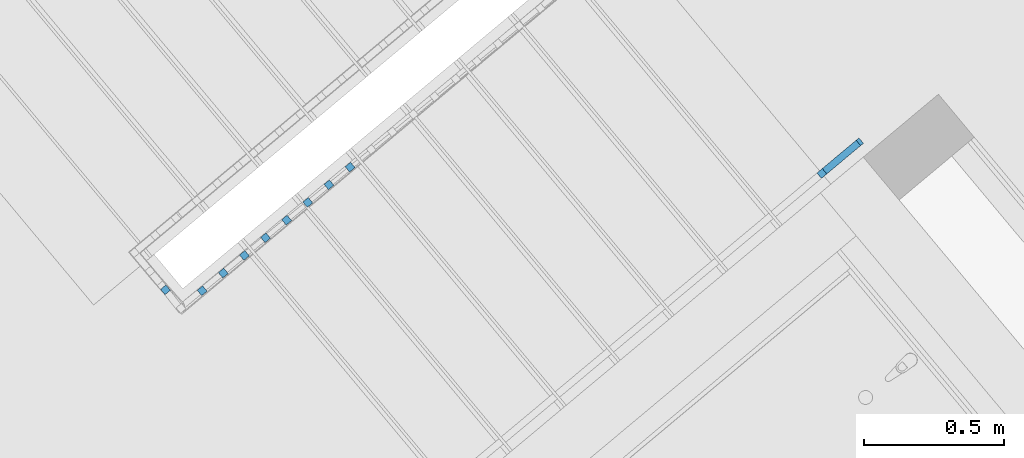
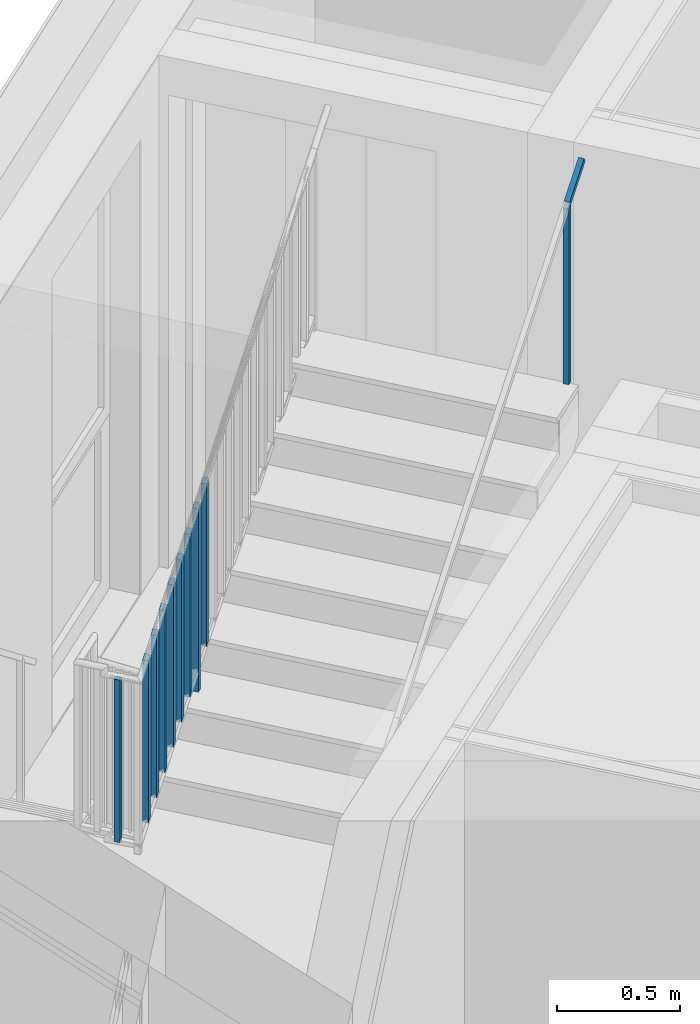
# One storey, part 44 of 58: 11 building element parts, 2 elements without a shape of their own.
"""IFC4 building model written with IfcOpenShell, lengths in metres."""

from ifc_helpers import new_model, entity, si_unit, converted_unit, derived_unit, direction, frame, origin_with_axes, place, context, subcontext, project, spatial, polygons, material, type_object, element, aggregate, save


model = new_model("IFC4")

# Units and contexts
model_context = context("Model", 3, precision=1e-05, world=origin_with_axes(), true_north=direction((0.0, 1.0)))
body_context = subcontext(model_context, "Body", "Model", "MODEL_VIEW")
ifc_project = project(units=[si_unit("LENGTHUNIT", "METRE"), si_unit("AREAUNIT", "SQUARE_METRE"), si_unit("VOLUMEUNIT", "CUBIC_METRE"), converted_unit("PLANEANGLEUNIT", "DEGREE", entity("IfcPlaneAngleMeasure", 0.0174532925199), si_unit("PLANEANGLEUNIT", "RADIAN"), dimensions=[0, 0, 0, 0, 0, 0, 0]), converted_unit("TIMEUNIT", "Year", entity("IfcTimeMeasure", 31556926.0), si_unit("TIMEUNIT", "SECOND"), dimensions=[0, 0, 1, 0, 0, 0, 0]), si_unit("MASSUNIT", "GRAM", prefix="KILO"), si_unit("THERMODYNAMICTEMPERATUREUNIT", "DEGREE_CELSIUS"), si_unit("LUMINOUSINTENSITYUNIT", "LUMEN"), si_unit("ENERGYUNIT", "JOULE", prefix="MEGA"), derived_unit("THERMALCONDUCTANCEUNIT", [(si_unit("POWERUNIT", "WATT"), 1), (si_unit("LENGTHUNIT", "METRE"), -1), (si_unit("THERMODYNAMICTEMPERATUREUNIT", "KELVIN"), -1)]), derived_unit("SPECIFICHEATCAPACITYUNIT", [(si_unit("ENERGYUNIT", "JOULE"), 1), (si_unit("MASSUNIT", "GRAM", prefix="KILO"), -1), (si_unit("THERMODYNAMICTEMPERATUREUNIT", "KELVIN"), -1)]), derived_unit("MASSDENSITYUNIT", [(si_unit("MASSUNIT", "GRAM", prefix="KILO"), 1), (si_unit("VOLUMEUNIT", "CUBIC_METRE"), -1)])], contexts=[model_context])

# Site, building, storey
site_placement = place(None, frame((-0.00153261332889, -0.00661245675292, 0.0), z_axis=(0.0, 0.0, 1.0), x_axis=(1.0, 0.0, 0.0)))
site = spatial("IfcSite", under=ifc_project, at=site_placement, Name="Site", CompositionType="ELEMENT")
building_placement = place(site_placement, origin_with_axes())
building = spatial("IfcBuilding", under=site, at=building_placement, Name="Building", CompositionType="ELEMENT")
storey_placement = place(building_placement, frame((0.0, 0.0, 5.7), z_axis=(0.0, 0.0, 1.0), x_axis=(1.0, 0.0, 0.0)))
storey = spatial("IfcBuildingStorey", under=building, at=storey_placement, Name="DG1", CompositionType="ELEMENT", Elevation=5.7)

# Railing, building element parts
railing_type = type_object("IfcRailingType", Name="Geländerart", PredefinedType="NOTDEFINED")
railing_1_placement = place(storey_placement, frame((-0.398547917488, 23.8355657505, 0.05), z_axis=(0.0, 0.0, 1.0), x_axis=(1.0, 0.0, 0.0)))
railing_1 = element("IfcRailing", 1, at=railing_1_placement, inside=storey, type_object=railing_type, Name="Geländer - 001", PredefinedType="NOTDEFINED")
ifc_material = material(Name="BEKLEIDUNG")
building_element_part_1_placement = place(railing_1_placement, origin_with_axes())
building_element_part_1 = element("IfcBuildingElementPart", 2, at=building_element_part_1_placement, material=ifc_material, Name="BEKLEIDUNG", PredefinedType="NOTDEFINED", context=body_context, shape_type="Tessellation", body=[
    polygons([(-1.7035806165, -1.60032774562, 1.80989887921), (-1.6843964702, -1.5842975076, 1.80989887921), (-1.6843964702, -1.5842975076, 2.61739887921), (-1.7035806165, -1.60032774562, 2.61739887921), (-1.71961085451, -1.58114359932, 1.80989887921), (-1.70042670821, -1.5651133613, 1.80989887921), (-1.70042670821, -1.5651133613, 2.61739887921), (-1.71961085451, -1.58114359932, 2.61739887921)], [[[1, 2, 3, 4]], [[1, 5, 6, 2]], [[2, 6, 7, 3]], [[4, 3, 7, 8]], [[5, 1, 4, 8]], [[6, 5, 8, 7]]], closed=True),
])
building_element_part_2_placement = place(railing_1_placement, origin_with_axes())
building_element_part_2 = element("IfcBuildingElementPart", 3, at=building_element_part_2_placement, material=ifc_material, Name="BEKLEIDUNG", PredefinedType="NOTDEFINED", context=body_context, shape_type="Tessellation", body=[
    polygons([(-1.55322027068, -1.58760797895, 1.87805222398), (-1.5692505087, -1.56842383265, 1.87805222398), (-1.5692505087, -1.56842383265, 2.68555222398), (-1.55322027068, -1.58760797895, 2.68555222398), (-1.57240441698, -1.60363821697, 1.86270754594), (-1.588434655, -1.58445407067, 1.86270754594), (-1.588434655, -1.58445407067, 2.67020754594), (-1.57240441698, -1.60363821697, 2.67020754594)], [[[1, 2, 3, 4]], [[1, 5, 6, 2]], [[2, 6, 7, 3]], [[4, 3, 7, 8]], [[5, 1, 4, 8]], [[6, 5, 8, 7]]], closed=True),
])
building_element_part_3_placement = place(railing_1_placement, origin_with_axes())
building_element_part_3 = element("IfcBuildingElementPart", 4, at=building_element_part_3_placement, material=ifc_material, Name="BEKLEIDUNG", PredefinedType="NOTDEFINED", context=body_context, shape_type="Tessellation", body=[
    polygons([(-1.4776060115, -1.52442484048, 1.93853322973), (-1.49363624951, -1.50524069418, 1.93853322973), (-1.49363624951, -1.50524069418, 2.74603322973), (-1.4776060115, -1.52442484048, 2.74603322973), (-1.4967901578, -1.54045507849, 1.92318855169), (-1.51282039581, -1.52127093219, 1.92318855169), (-1.51282039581, -1.52127093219, 2.73068855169), (-1.4967901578, -1.54045507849, 2.73068855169)], [[[1, 2, 3, 4]], [[1, 5, 6, 2]], [[2, 6, 7, 3]], [[4, 3, 7, 8]], [[5, 1, 4, 8]], [[6, 5, 8, 7]]], closed=True),
])
building_element_part_4_placement = place(railing_1_placement, origin_with_axes())
building_element_part_4 = element("IfcBuildingElementPart", 5, at=building_element_part_4_placement, material=ifc_material, Name="BEKLEIDUNG", PredefinedType="NOTDEFINED", context=body_context, shape_type="Tessellation", body=[
    polygons([(-1.40199175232, -1.461241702, 1.99901423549), (-1.41802199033, -1.4420575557, 1.99901423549), (-1.41802199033, -1.4420575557, 2.80651423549), (-1.40199175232, -1.461241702, 2.80651423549), (-1.42117589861, -1.47727194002, 1.98366955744), (-1.43720613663, -1.45808779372, 1.98366955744), (-1.43720613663, -1.45808779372, 2.79116955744), (-1.42117589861, -1.47727194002, 2.79116955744)], [[[1, 2, 3, 4]], [[1, 5, 6, 2]], [[2, 6, 7, 3]], [[4, 3, 7, 8]], [[5, 1, 4, 8]], [[6, 5, 8, 7]]], closed=True),
])
building_element_part_5_placement = place(railing_1_placement, origin_with_axes())
building_element_part_5 = element("IfcBuildingElementPart", 6, at=building_element_part_5_placement, material=ifc_material, Name="BEKLEIDUNG", PredefinedType="NOTDEFINED", context=body_context, shape_type="Tessellation", body=[
    polygons([(-1.32637749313, -1.39805856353, 2.05949524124), (-1.34240773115, -1.37887441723, 2.05949524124), (-1.34240773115, -1.37887441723, 2.86699524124), (-1.32637749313, -1.39805856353, 2.86699524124), (-1.34556163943, -1.41408880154, 2.04415056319), (-1.36159187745, -1.39490465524, 2.04415056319), (-1.36159187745, -1.39490465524, 2.85165056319), (-1.34556163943, -1.41408880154, 2.85165056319)], [[[1, 2, 3, 4]], [[1, 5, 6, 2]], [[2, 6, 7, 3]], [[4, 3, 7, 8]], [[5, 1, 4, 8]], [[6, 5, 8, 7]]], closed=True),
])
building_element_part_6_placement = place(railing_1_placement, origin_with_axes())
building_element_part_6 = element("IfcBuildingElementPart", 7, at=building_element_part_6_placement, material=ifc_material, Name="BEKLEIDUNG", PredefinedType="NOTDEFINED", context=body_context, shape_type="Tessellation", body=[
    polygons([(-1.25076323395, -1.33487542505, 2.11997624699), (-1.26679347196, -1.31569127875, 2.11997624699), (-1.26679347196, -1.31569127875, 2.92747624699), (-1.25076323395, -1.33487542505, 2.92747624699), (-1.26994738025, -1.35090566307, 2.10463156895), (-1.28597761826, -1.33172151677, 2.10463156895), (-1.28597761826, -1.33172151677, 2.91213156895), (-1.26994738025, -1.35090566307, 2.91213156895)], [[[1, 2, 3, 4]], [[1, 5, 6, 2]], [[2, 6, 7, 3]], [[4, 3, 7, 8]], [[5, 1, 4, 8]], [[6, 5, 8, 7]]], closed=True),
])
building_element_part_7_placement = place(railing_1_placement, origin_with_axes())
building_element_part_7 = element("IfcBuildingElementPart", 8, at=building_element_part_7_placement, material=ifc_material, Name="BEKLEIDUNG", PredefinedType="NOTDEFINED", context=body_context, shape_type="Tessellation", body=[
    polygons([(-1.17514897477, -1.27169228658, 2.18045725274), (-1.19117921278, -1.25250814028, 2.18045725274), (-1.19117921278, -1.25250814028, 2.98795725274), (-1.17514897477, -1.27169228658, 2.98795725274), (-1.19433312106, -1.28772252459, 2.1651125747), (-1.21036335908, -1.26853837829, 2.1651125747), (-1.21036335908, -1.26853837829, 2.9726125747), (-1.19433312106, -1.28772252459, 2.9726125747)], [[[1, 2, 3, 4]], [[1, 5, 6, 2]], [[2, 6, 7, 3]], [[4, 3, 7, 8]], [[5, 1, 4, 8]], [[6, 5, 8, 7]]], closed=True),
])
building_element_part_8_placement = place(railing_1_placement, origin_with_axes())
building_element_part_8 = element("IfcBuildingElementPart", 9, at=building_element_part_8_placement, material=ifc_material, Name="BEKLEIDUNG", PredefinedType="NOTDEFINED", context=body_context, shape_type="Tessellation", body=[
    polygons([(-1.09953471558, -1.2085091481, 2.12470588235), (-1.1155649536, -1.1893250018, 2.12470588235), (-1.1155649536, -1.1893250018, 3.05093825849), (-1.09953471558, -1.2085091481, 3.05093825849), (-1.11871886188, -1.22453938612, 2.12470588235), (-1.13474909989, -1.20535523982, 2.12470588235), (-1.13474909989, -1.20535523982, 3.03559358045), (-1.11871886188, -1.22453938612, 3.03559358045)], [[[1, 2, 3, 4]], [[1, 5, 6, 2]], [[2, 6, 7, 3]], [[4, 3, 7, 8]], [[5, 1, 4, 8]], [[6, 5, 8, 7]]], closed=True),
])
building_element_part_9_placement = place(railing_1_placement, origin_with_axes())
building_element_part_9 = element("IfcBuildingElementPart", 10, at=building_element_part_9_placement, material=ifc_material, Name="BEKLEIDUNG", PredefinedType="NOTDEFINED", context=body_context, shape_type="Tessellation", body=[
    polygons([(-1.0239204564, -1.14532600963, 2.30141926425), (-1.03995069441, -1.12614186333, 2.30141926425), (-1.03995069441, -1.12614186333, 3.10891926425), (-1.0239204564, -1.14532600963, 3.10891926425), (-1.0431046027, -1.16135624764, 2.2860745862), (-1.05913484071, -1.14217210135, 2.2860745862), (-1.05913484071, -1.14217210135, 3.0935745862), (-1.0431046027, -1.16135624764, 3.0935745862)], [[[1, 2, 3, 4]], [[1, 5, 6, 2]], [[2, 6, 7, 3]], [[4, 3, 7, 8]], [[5, 1, 4, 8]], [[6, 5, 8, 7]]], closed=True),
])
aggregate(railing_1, [building_element_part_1, building_element_part_2, building_element_part_3, building_element_part_4, building_element_part_5, building_element_part_6, building_element_part_7, building_element_part_8, building_element_part_9])

railing_2_placement = place(storey_placement, frame((-1.26480795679, 21.3396367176, 1.82058823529), z_axis=(0.0, 0.0, 1.0), x_axis=(1.0, 0.0, 0.0)))
railing_2 = element("IfcRailing", 11, at=railing_2_placement, inside=storey, type_object=railing_type, Name="Geländer - 002", PredefinedType="NOTDEFINED")
building_element_part_10_placement = place(railing_2_placement, origin_with_axes())
building_element_part_10 = element("IfcBuildingElementPart", 12, at=building_element_part_10_placement, material=ifc_material, Name="BEKLEIDUNG", PredefinedType="NOTDEFINED", context=body_context, shape_type="Tessellation", body=[
    polygons([(1.53065542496, 1.32788138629, 1.23941176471), (1.51462518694, 1.34706553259, 1.23941176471), (1.51462518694, 1.34706553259, 2.12710606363), (1.53065542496, 1.32788138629, 2.12710606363), (1.51147127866, 1.31185114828, 1.23941176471), (1.49544104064, 1.33103529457, 1.23941176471), (1.49544104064, 1.33103529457, 2.11171746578), (1.51147127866, 1.31185114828, 2.11171746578)], [[[1, 2, 3, 4]], [[1, 5, 6, 2]], [[2, 6, 7, 3]], [[4, 3, 7, 8]], [[5, 1, 4, 8]], [[6, 5, 8, 7]]], closed=True),
])
building_element_part_11_placement = place(railing_2_placement, origin_with_axes())
building_element_part_11 = element("IfcBuildingElementPart", 13, at=building_element_part_11_placement, material=ifc_material, Name="BEKLEIDUNG", PredefinedType="NOTDEFINED", context=body_context, shape_type="Tessellation", body=[
    polygons([(1.52106335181, 1.31986626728, 2.13941176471), (1.53111960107, 1.32826925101, 2.11812182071), (1.66181700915, 1.43747976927, 2.22296098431), (1.65176075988, 1.42907678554, 2.24425092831), (1.50503311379, 1.33905041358, 2.13941176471), (1.51508936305, 1.34745339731, 2.11812182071), (1.64578677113, 1.45666391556, 2.22296098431), (1.63573052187, 1.44826093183, 2.24425092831)], [[[1, 2, 3, 4]], [[1, 5, 6, 2]], [[2, 6, 7, 3]], [[4, 3, 7, 8]], [[5, 1, 4, 8]], [[6, 5, 8, 7]]], closed=True),
])
aggregate(railing_2, [building_element_part_10, building_element_part_11])

save(model, "model.ifc")
